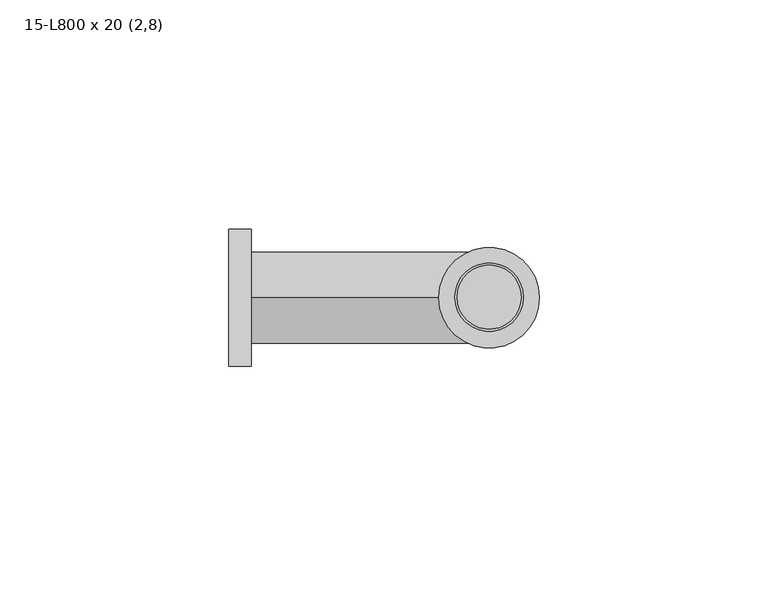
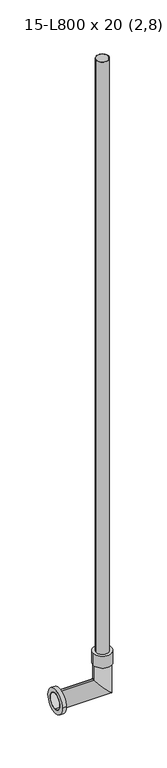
"""IFC4 building model written with IfcOpenShell, lengths in millimetres: pipe fitting geometry, БИР ПЕКС_Трубка приборная_Г-образная : 15-L800 x 20 (2,8)."""

from ifc_helpers import new_model, si_unit, point, frame, origin, origin_2d, place, context, project, spatial, polyline, circle_curve, ellipse_curve, trimmed, segment, composite_curve, outline, extrude, source, transform, mapped, element, save
from ifc_brep_helpers import plane_surface, cylinder_surface, revolved_surface, advanced_brep


def pipe_fitting_15_l800_x_20_2_8_a4898562(model_context):
    return source(origin(), model_context, "Body", "SolidModel", [
        extrude(outline(composite_curve([segment(trimmed(circle_curve(origin_2d(), 7.5), [point((-7.5, 0.0))], [point((7.5, 0.0))], False, "CARTESIAN"), True, "CONTINUOUS"), segment(trimmed(circle_curve(origin_2d(), 7.5), [point((7.5, 0.0))], [point((-7.5, 0.0))], False, "CARTESIAN"), True, "CONTINUOUS")], self_intersect=False), holes=[composite_curve([segment(trimmed(circle_curve(origin_2d(), 7.0), [point((-7.0, 0.0))], [point((7.0, 0.0))], True, "CARTESIAN"), True, "CONTINUOUS"), segment(trimmed(circle_curve(origin_2d(), 7.0), [point((7.0, 0.0))], [point((-7.0, 0.0))], True, "CARTESIAN"), True, "CONTINUOUS")], self_intersect=False)]), frame((0.0, 0.0, 45.0), z_axis=(0.0, 0.0, 1.0), x_axis=(1.0, 0.0, 0.0)), (0.0, 0.0, 1.0), 755.0),
        extrude(outline(composite_curve([segment(trimmed(circle_curve(origin_2d(), 11.0), [point((-11.0, 0.0))], [point((11.0, 0.0))], False, "CARTESIAN"), True, "CONTINUOUS"), segment(trimmed(circle_curve(origin_2d(), 11.0), [point((11.0, 0.0))], [point((-11.0, 0.0))], False, "CARTESIAN"), True, "CONTINUOUS")], self_intersect=False)), frame((0.0, 0.0, 30.0), z_axis=(0.0, 0.0, 1.0), x_axis=(1.0, 0.0, 0.0)), (0.0, 0.0, 1.0), 15.0),
        extrude(outline(composite_curve([segment(trimmed(circle_curve(origin_2d(), 15.0), [point((-15.0, 0.0))], [point((15.0, 0.0))], False, "CARTESIAN"), True, "CONTINUOUS"), segment(trimmed(circle_curve(origin_2d(), 15.0), [point((15.0, 0.0))], [point((-15.0, 0.0))], False, "CARTESIAN"), True, "CONTINUOUS")], self_intersect=False), holes=[composite_curve([segment(trimmed(circle_curve(origin_2d(), 10.0), [point((-10.0, 0.0))], [point((10.0, 0.0))], True, "CARTESIAN"), True, "CONTINUOUS"), segment(trimmed(circle_curve(origin_2d(), 10.0), [point((10.0, 0.0))], [point((-10.0, 0.0))], True, "CARTESIAN"), True, "CONTINUOUS")], self_intersect=False)]), frame((-57.0, 0.0, 0.0), z_axis=(1.0, 0.0, 0.0), x_axis=(0.0, 1.0, 0.0)), (0.0, 0.0, 1.0), 5.0),
        advanced_brep(
        [(-57.0, 0.0, -10.0), (-57.0, 0.0, 10.0), (-57.0, 0.0, -9.5), (-57.0, 0.0, 9.5), (10.0, 0.0, -10.0), (-10.0, 0.0, 10.0), (10.0, 0.0, 30.0), (-10.0, 0.0, 30.0), (9.5, 0.0, 30.0), (-9.5, 0.0, 30.0), (9.5, 0.0, -9.5), (-9.5, 0.0, 9.5)],
        [
            (0, 1, circle_curve(frame((-57.0, 0.0, 0.0), z_axis=(-1.0, 0.0, 0.0), x_axis=(0.0, 0.0, 1.0)), 10.0)),
            (1, 0, circle_curve(frame((-57.0, 0.0, 0.0), z_axis=(-1.0, 0.0, 0.0), x_axis=(0.0, 0.0, 1.0)), 10.0)),
            (2, 3, circle_curve(frame((-57.0, 0.0, 0.0), z_axis=(1.0, 0.0, 0.0), x_axis=(0.0, 0.0, 1.0)), 9.5)),
            (3, 2, circle_curve(frame((-57.0, 0.0, 0.0), z_axis=(1.0, 0.0, 0.0), x_axis=(0.0, 0.0, 1.0)), 9.5)),
            (0, 4),
            (4, 5, ellipse_curve(frame((0.0, 0.0, 0.0), z_axis=(-0.7071067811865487, 0.0, -0.7071067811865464), x_axis=(-0.7071067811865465, 0.0, 0.7071067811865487)), 14.1421356, 10.0)),
            (5, 1),
            (5, 4, ellipse_curve(frame((0.0, 0.0, 0.0), z_axis=(-0.7071067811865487, 0.0, -0.7071067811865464), x_axis=(-0.7071067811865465, 0.0, 0.7071067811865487)), 14.1421356, 10.0)),
            (6, 7, circle_curve(frame((0.0, 0.0, 30.0), z_axis=(0.0, 0.0, 1.0), x_axis=(-1.0, 0.0, 0.0)), 10.0)),
            (7, 6, circle_curve(frame((0.0, 0.0, 30.0), z_axis=(0.0, 0.0, 1.0), x_axis=(-1.0, 0.0, 0.0)), 10.0)),
            (8, 9, circle_curve(frame((0.0, 0.0, 30.0), z_axis=(0.0, 0.0, -1.0), x_axis=(-1.0, 0.0, 0.0)), 9.5)),
            (9, 8, circle_curve(frame((0.0, 0.0, 30.0), z_axis=(0.0, 0.0, -1.0), x_axis=(-1.0, 0.0, 0.0)), 9.5)),
            (4, 6),
            (7, 5),
            (2, 10),
            (10, 11, ellipse_curve(frame((0.0, 0.0, 0.0), z_axis=(0.7071067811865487, 0.0, 0.7071067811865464), x_axis=(0.7071067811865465, 0.0, -0.7071067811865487)), 13.4350288, 9.5)),
            (11, 3),
            (11, 10, ellipse_curve(frame((0.0, 0.0, 0.0), z_axis=(0.7071067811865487, 0.0, 0.7071067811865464), x_axis=(0.7071067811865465, 0.0, -0.7071067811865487)), 13.4350288, 9.5)),
            (10, 8),
            (9, 11),
        ],
        [
            plane_surface(frame((-57.0, 0.0, 0.0), z_axis=(-1.0, 0.0, 0.0), x_axis=(0.0, -1.0, 0.0))),
            cylinder_surface(frame((-57.0, 0.0, 0.0), z_axis=(-1.0, 0.0, 0.0), x_axis=(0.0, 0.0, 1.0)), 10.0),
            plane_surface(frame((0.0, 0.0, 30.0), z_axis=(0.0, 0.0, 1.0), x_axis=(0.0, -1.0, 0.0))),
            cylinder_surface(frame((0.0, 0.0, 0.0), z_axis=(0.0, 0.0, -1.0), x_axis=(-1.0, 0.0, 0.0)), 10.0),
            revolved_surface(polyline([(9.5, 0.0, 9.5), (-57.0, 0.0, 9.5)]), (-57.0, 0.0, 0.0), (1.0, 0.0, 0.0)),
            revolved_surface(polyline([(-9.5, 0.0, 30.0), (-9.5, 0.0, -9.5)]), (0.0, 0.0, 0.0), (0.0, 0.0, 1.0)),
        ],
        [
            (0, [[1, 2], [3, 4]]),
            (1, [[-1, 5, 6, 7]]),
            (1, [[-2, -7, 8, -5]]),
            (2, [[9, 10], [11, 12]]),
            (3, [[-6, 13, -10, 14]]),
            (3, [[-8, -14, -9, -13]]),
            (4, [[-3, 15, 16, 17]]),
            (4, [[-4, -17, 18, -15]]),
            (5, [[-16, 19, -12, 20]]),
            (5, [[-18, -20, -11, -19]]),
        ],
    ),
    ])


if __name__ == "__main__":
    model = new_model("IFC4")
    model_context = context("Model", 3, world=origin())
    ifc_project = project(units=[si_unit("LENGTHUNIT", "METRE", prefix="MILLI")], contexts=[model_context])
    site = spatial("IfcSite", under=ifc_project)
    building = spatial("IfcBuilding", under=site)
    placement = place(None, origin())
    pipe_fitting_15_l800_x_20_2_8_shape = pipe_fitting_15_l800_x_20_2_8_a4898562(model_context)
    element("IfcPipeFitting", 1, ObjectType="БИР ПЕКС_Трубка приборная_Г-образная : 15-L800 x 20 (2,8)", at=placement, inside=building, context=model_context, shape_type="MappedRepresentation", body=[
        mapped(pipe_fitting_15_l800_x_20_2_8_shape, transform((0.0, 0.0, 0.0), x_axis=(1.0, 0.0, 0.0), y_axis=(0.0, 1.0, 0.0), z_axis=(0.0, 0.0, 1.0))),
    ])
    save(model, "model.ifc")
